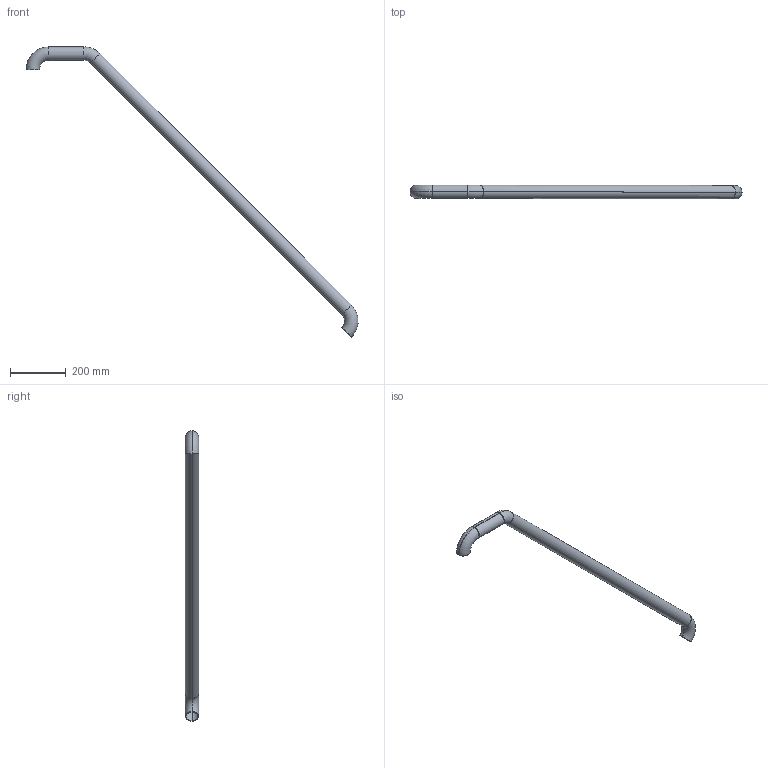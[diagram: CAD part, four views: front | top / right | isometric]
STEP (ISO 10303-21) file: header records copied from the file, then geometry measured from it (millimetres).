
FILE_DESCRIPTION (( 'STEP AP214' ), '1' );
FILE_NAME ('CCJ029-REP.305 - MAIN COURANTE ESCALIER SUPERIEUR TYPE 1.STEP', '2025-04-17T08:33:32', ( '' ), ( '' ), 'SwSTEP 2.0', 'SolidWorks 2021', '' );
FILE_SCHEMA (( 'AUTOMOTIVE_DESIGN' ));
Length unit declared in the file: millimetre
Products named in the file (1): CCJ029-REP.305 - MAIN COURANTE ESCALIER SUPERIEUR TYPE 1
Bounding box: 1191.01 x 48.3 x 1041.15 mm (x, y, z)
Volume: 585186.6 mm3; surface area: 468868.7 mm2
Topology: 1 solids, 1 shells, 34 faces, 68 edges, 36 vertices
Faces by surface type: cylinder 20, torus 12, plane 2
Entity records: 914 total; most frequent: DIRECTION 186, CARTESIAN_POINT 139, ORIENTED_EDGE 136, AXIS2_PLACEMENT_3D 83, EDGE_CURVE 68, CIRCLE 48, EDGE_LOOP 36, VERTEX_POINT 36
